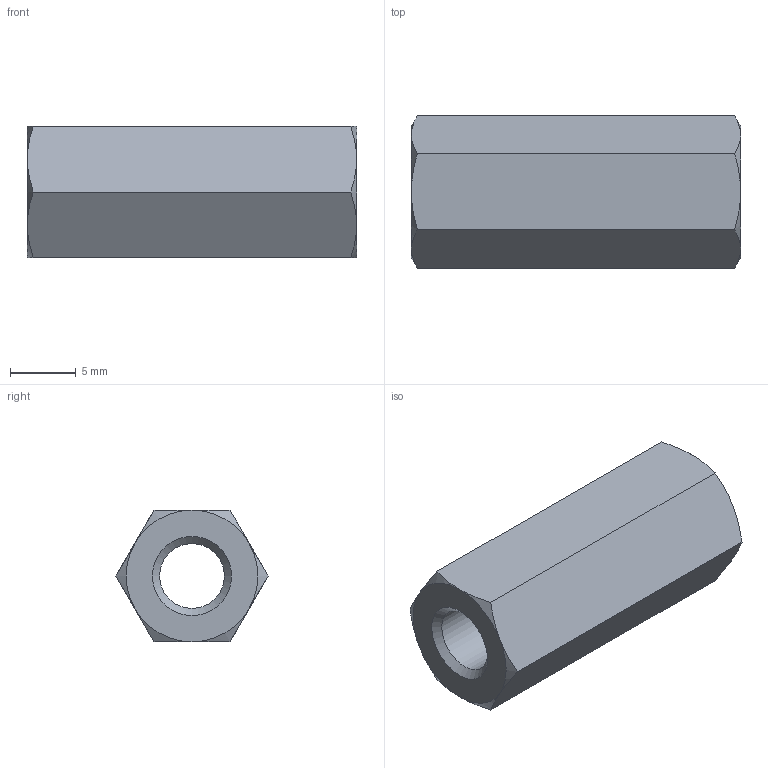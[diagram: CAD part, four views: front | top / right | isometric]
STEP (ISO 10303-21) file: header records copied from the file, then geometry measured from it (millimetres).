
FILE_DESCRIPTION( ( 'STEP AP203' ), '1' );
FILE_NAME( 'C:/Temp/Ganter_Step_05_03_2020/data/3_2/gn6220/gn6220_ni/Stainless Steel-Spacer GN 6220-NI-M6-25-A.stp', '2020-03-13T05:43:02', ( 'License CC BY-ND 4.0' ), ( 'CADENAS' ), ' ', 'PARTsolutions', ' ' );
FILE_SCHEMA( ( 'CONFIG_CONTROL_DESIGN' ) );
Length unit declared in the file: millimetre
Products named in the file (1): _Stainless Steel-Spacer GN 6220-NI-M6-25-A
Bounding box: 25 x 11.55 x 10 mm (x, y, z)
Volume: 1683.3 mm3; surface area: 1370.3 mm2
Topology: 1 solids, 1 shells, 23 faces, 49 edges, 28 vertices
Faces by surface type: cone 14, plane 8, cylinder 1
Full cylindrical faces by diameter (mm): 4.917 x1
Entity records: 712 total; most frequent: CARTESIAN_POINT 218, ORIENTED_EDGE 92, DIRECTION 86, EDGE_CURVE 46, AXIS2_PLACEMENT_3D 40, EDGE_LOOP 28, VERTEX_POINT 28, FACE_OUTER_BOUND 24
